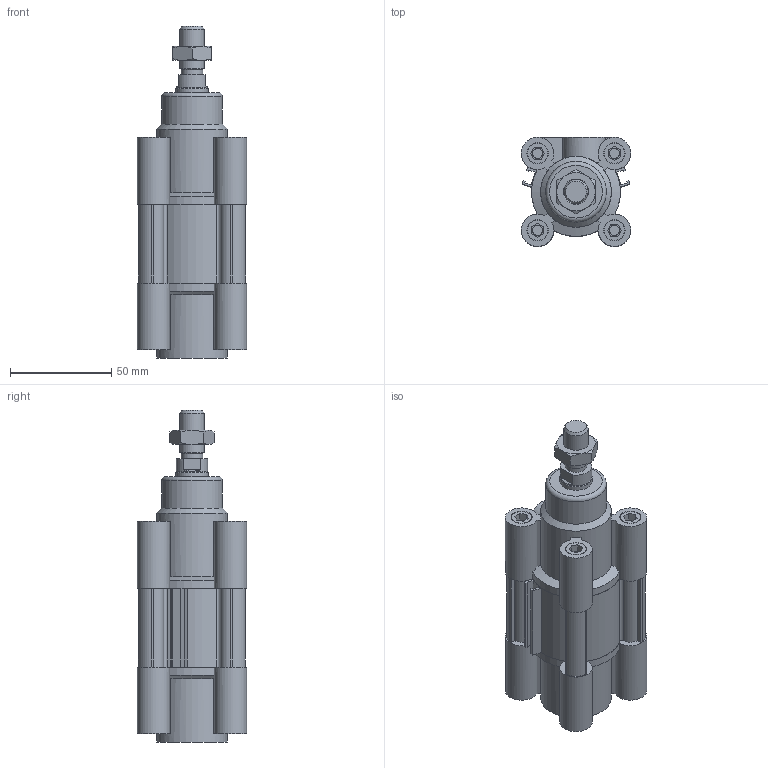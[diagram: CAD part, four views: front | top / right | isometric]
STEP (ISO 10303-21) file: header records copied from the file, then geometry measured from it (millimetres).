
FILE_DESCRIPTION((''),'2;1');
FILE_NAME('I:\Area Tecnica\Disegni\VARIE-3D\Componenti\ECOLIGHT\139#.##_0000_01\stp\139#_40_0000_01.iam.stp','2012-01-28T07:58:12',(''),(''),'Autodesk Inventor 2012','Autodesk Inventor 2012','');
FILE_SCHEMA(('AUTOMOTIVE_DESIGN { 1 0 10303 214 1 1 1 1 }'));
Length unit declared in the file: millimetre
Products named in the file (6): 139#_40_0000_01; CPL040-004-0; CPL040-001-01; CPL040-002-01; CPL_40_0000; 1320_40_18F
Assembly tree (5 placements, depth 2):
  139#_40_0000_01
    CPL040-004-0
    CPL040-001-01
    CPL040-002-01
    CPL_40_0000
    1320_40_18F
Bounding box: 54 x 54 x 164 mm (x, y, z)
Volume: 229135.2 mm3; surface area: 71039.4 mm2
Topology: 5 solids, 5 shells, 316 faces, 788 edges, 522 vertices
Faces by surface type: plane 200, cylinder 91, cone 24, torus 1
Full cylindrical faces by diameter (mm): 5 x8, 5.5 x4, 8 x2, 10 x8, 10.5 x9, 10.8 x1, 11.6 x2, 12 x1, 15.5 x1, 16 x2, 30 x1, 35 x2, 40 x4
Entity records: 9416 total; most frequent: CARTESIAN_POINT 1761, DIRECTION 1538, ORIENTED_EDGE 1442, EDGE_CURVE 721, AXIS2_PLACEMENT_3D 544, VERTEX_POINT 507, VECTOR 450, LINE 450
